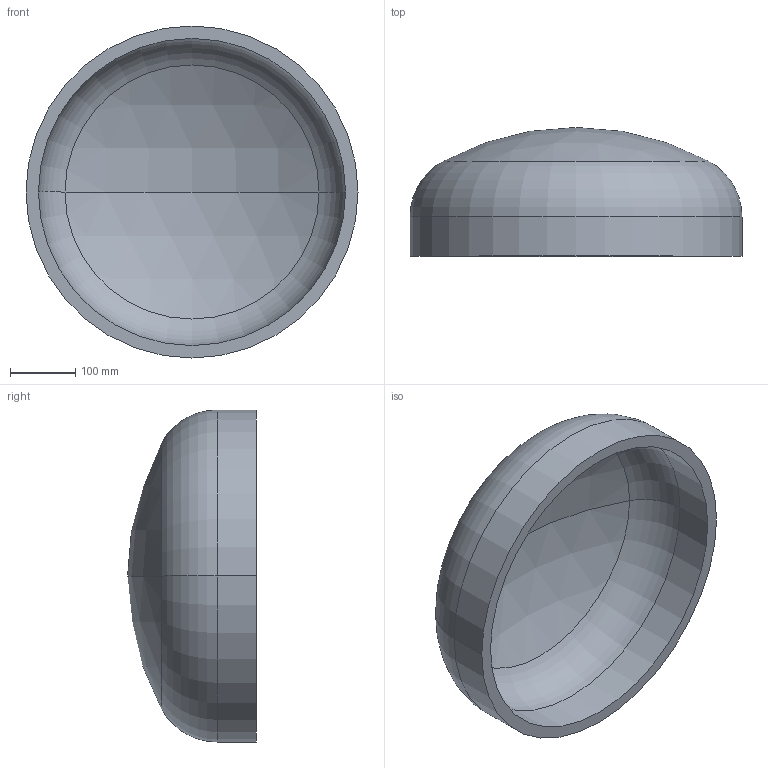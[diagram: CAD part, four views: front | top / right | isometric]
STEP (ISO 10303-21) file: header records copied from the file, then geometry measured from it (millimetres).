
FILE_DESCRIPTION (( 'STEP AP203' ), '1' );
FILE_NAME ('DIN 28013 Korbbogenform_-_Boden DIN 28013 - 508 x 60 - I - s=19.step', '2016-07-01T07:52:58', ( '' ), ( '' ), 'SwSTEP 2.0', 'SolidWorks 2013', '' );
FILE_SCHEMA (( 'CONFIG_CONTROL_DESIGN' ));
Length unit declared in the file: millimetre
Products named in the file (1): DIN 28013 Korbbogenform_-_Boden DIN 28013 - 508 x 60 - I - s=19
Bounding box: 508 x 197.02 x 508 mm (x, y, z)
Volume: 6829311.1 mm3; surface area: 748819.3 mm2
Topology: 1 solids, 1 shells, 13 faces, 24 edges, 14 vertices
Faces by surface type: torus 4, cylinder 4, sphere 4, plane 1
Entity records: 407 total; most frequent: DIRECTION 72, CARTESIAN_POINT 52, ORIENTED_EDGE 48, AXIS2_PLACEMENT_3D 34, EDGE_CURVE 24, CIRCLE 20, EDGE_LOOP 14, VERTEX_POINT 14
